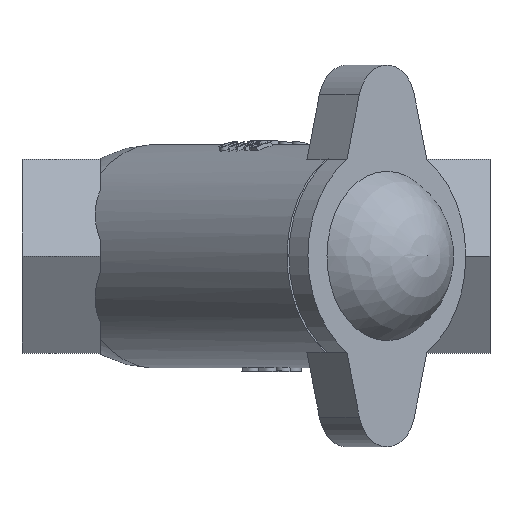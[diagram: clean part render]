
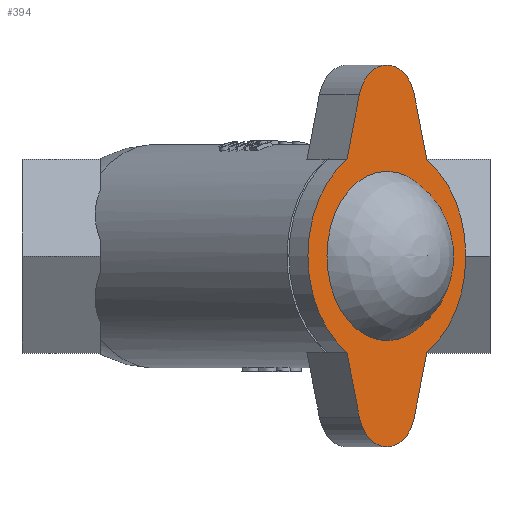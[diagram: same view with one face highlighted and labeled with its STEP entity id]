
A CAD part, top view. The second image highlights one B-rep face of the part: STEP entity #394.
In plain terms, the highlighted planar face has unit normal (0.707, 0, 0.707).
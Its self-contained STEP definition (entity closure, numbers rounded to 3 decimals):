
#394 = ADVANCED_FACE( '', ( #878, #879 ), #880, .F. );
#878 = FACE_OUTER_BOUND( '', #3137, .T. );
#879 = FACE_BOUND( '', #3138, .T. );
#880 = PLANE( '', #3139 );
#3137 = EDGE_LOOP( '', ( #6601, #6602, #6603, #6604, #6605, #6606, #6607, #6608 ) );
#3138 = EDGE_LOOP( '', ( #6609 ) );
#3139 = AXIS2_PLACEMENT_3D( '', #6610, #6611, #6612 );
#6601 = ORIENTED_EDGE( '', *, *, #7782, .F. );
#6602 = ORIENTED_EDGE( '', *, *, #7783, .F. );
#6603 = ORIENTED_EDGE( '', *, *, #7619, .F. );
#6604 = ORIENTED_EDGE( '', *, *, #7784, .F. );
#6605 = ORIENTED_EDGE( '', *, *, #7611, .F. );
#6606 = ORIENTED_EDGE( '', *, *, #7739, .T. );
#6607 = ORIENTED_EDGE( '', *, *, #7785, .T. );
#6608 = ORIENTED_EDGE( '', *, *, #7524, .T. );
#6609 = ORIENTED_EDGE( '', *, *, #7786, .T. );
#6610 = CARTESIAN_POINT( '', ( 26.381, 0., 108.929 ) );
#6611 = DIRECTION( '', ( -0.707, 0., -0.707 ) );
#6612 = DIRECTION( '', ( -0.707, 0., 0.707 ) );
#7524 = EDGE_CURVE( '', #8271, #8272, #8273, .T. );
#7611 = EDGE_CURVE( '', #8408, #8410, #8411, .T. );
#7619 = EDGE_CURVE( '', #8423, #8424, #8425, .T. );
#7739 = EDGE_CURVE( '', #8408, #8602, #8603, .T. );
#7782 = EDGE_CURVE( '', #8665, #8272, #8666, .T. );
#7783 = EDGE_CURVE( '', #8424, #8665, #8667, .T. );
#7784 = EDGE_CURVE( '', #8410, #8423, #8668, .T. );
#7785 = EDGE_CURVE( '', #8602, #8271, #8669, .T. );
#7786 = EDGE_CURVE( '', #8670, #8670, #8671, .T. );
#8271 = VERTEX_POINT( '', #10172 );
#8272 = VERTEX_POINT( '', #10173 );
#8273 = LINE( '', #10174, #10175 );
#8408 = VERTEX_POINT( '', #10673 );
#8410 = VERTEX_POINT( '', #10676 );
#8411 = CIRCLE( '', #10677, 41.5 );
#8423 = VERTEX_POINT( '', #10696 );
#8424 = VERTEX_POINT( '', #10697 );
#8425 = CIRCLE( '', #10698, 15. );
#8602 = VERTEX_POINT( '', #11798 );
#8603 = LINE( '', #11799, #11800 );
#8665 = VERTEX_POINT( '', #12113 );
#8666 = CIRCLE( '', #12114, 41.5 );
#8667 = LINE( '', #12115, #12116 );
#8668 = LINE( '', #12117, #12118 );
#8669 = CIRCLE( '', #12119, 15. );
#8670 = VERTEX_POINT( '', #12120 );
#8671 = CIRCLE( '', #12121, 31.5 );
#10172 = CARTESIAN_POINT( '', ( 38.416, 59.914, 96.894 ) );
#10173 = CARTESIAN_POINT( '', ( 33.806, 35.795, 101.504 ) );
#10174 = CARTESIAN_POINT( '', ( 38.416, 59.914, 96.894 ) );
#10175 = VECTOR( '', #13893, 1000. );
#10673 = CARTESIAN_POINT( '', ( 63.504, 35.795, 71.806 ) );
#10676 = CARTESIAN_POINT( '', ( 63.504, -35.795, 71.806 ) );
#10677 = AXIS2_PLACEMENT_3D( '', #13939, #13940, #13941 );
#10696 = CARTESIAN_POINT( '', ( 58.894, -59.914, 76.416 ) );
#10697 = CARTESIAN_POINT( '', ( 38.416, -59.914, 96.894 ) );
#10698 = AXIS2_PLACEMENT_3D( '', #13943, #13944, #13945 );
#11798 = CARTESIAN_POINT( '', ( 58.894, 59.914, 76.416 ) );
#11799 = CARTESIAN_POINT( '', ( 58.894, 59.914, 76.416 ) );
#11800 = VECTOR( '', #13990, 1000. );
#12113 = CARTESIAN_POINT( '', ( 33.806, -35.795, 101.504 ) );
#12114 = AXIS2_PLACEMENT_3D( '', #14005, #14006, #14007 );
#12115 = CARTESIAN_POINT( '', ( 38.416, -59.914, 96.894 ) );
#12116 = VECTOR( '', #14008, 1000. );
#12117 = CARTESIAN_POINT( '', ( 58.894, -59.914, 76.416 ) );
#12118 = VECTOR( '', #14009, 1000. );
#12119 = AXIS2_PLACEMENT_3D( '', #14010, #14011, #14012 );
#12120 = CARTESIAN_POINT( '', ( 26.381, 0., 108.929 ) );
#12121 = AXIS2_PLACEMENT_3D( '', #14013, #14014, #14015 );
#13893 = DIRECTION( '', ( -0.185, -0.965, 0.185 ) );
#13939 = CARTESIAN_POINT( '', ( 48.655, 0., 86.655 ) );
#13940 = DIRECTION( '', ( -0.707, 0., -0.707 ) );
#13941 = DIRECTION( '', ( -0.707, 0., 0.707 ) );
#13943 = CARTESIAN_POINT( '', ( 48.655, -56., 86.655 ) );
#13944 = DIRECTION( '', ( -0.707, 0., -0.707 ) );
#13945 = DIRECTION( '', ( 0., 1., 0. ) );
#13990 = DIRECTION( '', ( -0.185, 0.965, 0.185 ) );
#14005 = CARTESIAN_POINT( '', ( 48.655, 0., 86.655 ) );
#14006 = DIRECTION( '', ( -0.707, 0., -0.707 ) );
#14007 = DIRECTION( '', ( -0.707, 0., 0.707 ) );
#14008 = DIRECTION( '', ( -0.185, 0.965, 0.185 ) );
#14009 = DIRECTION( '', ( -0.185, -0.965, 0.185 ) );
#14010 = CARTESIAN_POINT( '', ( 48.655, 56., 86.655 ) );
#14011 = DIRECTION( '', ( 0.707, 0., 0.707 ) );
#14012 = DIRECTION( '', ( 0., -1., 0. ) );
#14013 = CARTESIAN_POINT( '', ( 48.655, 0., 86.655 ) );
#14014 = DIRECTION( '', ( -0.707, 0., -0.707 ) );
#14015 = DIRECTION( '', ( -0.707, 0., 0.707 ) );
